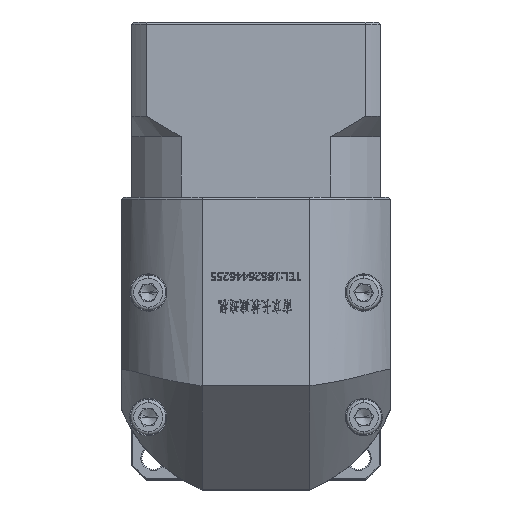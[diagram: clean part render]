
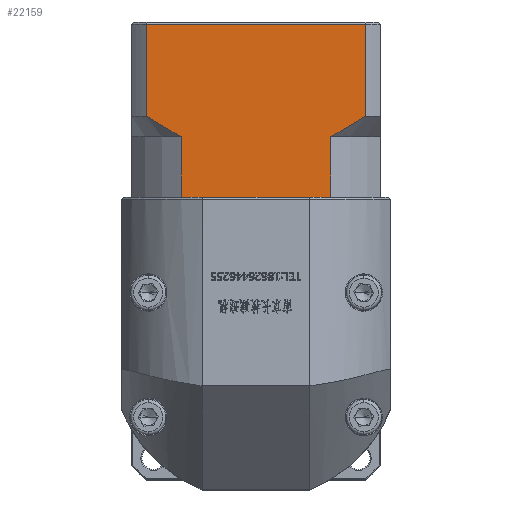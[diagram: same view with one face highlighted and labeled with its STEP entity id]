
A CAD part, top view. The second image highlights one B-rep face of the part: STEP entity #22159.
In plain terms, the highlighted planar face has unit normal (0, 0, 1).
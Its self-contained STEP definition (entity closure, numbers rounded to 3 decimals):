
#1004 = VERTEX_POINT ( 'NONE', #127131 ) ;
#2830 = DIRECTION ( 'NONE',  ( 0., 1., 0. ) ) ;
#6940 = DIRECTION ( 'NONE',  ( 0., -1., 0. ) ) ;
#10048 = CARTESIAN_POINT ( 'NONE',  ( 30.263, 90.373, 200.65 ) ) ;
#11062 = LINE ( 'NONE', #87279, #72237 ) ;
#11281 = VERTEX_POINT ( 'NONE', #120670 ) ;
#18015 = CARTESIAN_POINT ( 'NONE',  ( 27.52, 66.398, 200.65 ) ) ;
#19823 = VECTOR ( 'NONE', #106715, 1000. ) ;
#20478 = CARTESIAN_POINT ( 'NONE',  ( -13.231, 48.673, 200.65 ) ) ;
#22159 = ADVANCED_FACE ( 'NONE', ( #101096 ), #94531, .F. ) ;
#22619 = B_SPLINE_CURVE_WITH_KNOTS ( 'NONE', 3,
 ( #66599, #54347, #91208, #18015, #103552, #30273 ),
 .UNSPECIFIED., .F., .F.,
 ( 4, 2, 4 ),
 ( 0.1, 0.104, 0.109 ),
 .UNSPECIFIED. ) ;
#22865 = DIRECTION ( 'NONE',  ( 0., 0., -1. ) ) ;
#23471 = EDGE_CURVE ( 'NONE', #81962, #28402, #105769, .T. ) ;
#23988 = ORIENTED_EDGE ( 'NONE', *, *, #142561, .F. ) ;
#26711 = EDGE_CURVE ( 'NONE', #11281, #99156, #11062, .T. ) ;
#28402 = VERTEX_POINT ( 'NONE', #61653 ) ;
#29356 = VERTEX_POINT ( 'NONE', #10048 ) ;
#30273 = CARTESIAN_POINT ( 'NONE',  ( 30.263, 68.173, 200.65 ) ) ;
#35148 = EDGE_CURVE ( 'NONE', #29356, #48958, #87811, .T. ) ;
#36827 = VECTOR ( 'NONE', #58714, 1000. ) ;
#38342 = ORIENTED_EDGE ( 'NONE', *, *, #73760, .T. ) ;
#43843 = DIRECTION ( 'NONE',  ( 0., 1., 0. ) ) ;
#44931 = CARTESIAN_POINT ( 'NONE',  ( -22.652, 68.173, 200.65 ) ) ;
#46470 = CARTESIAN_POINT ( 'NONE',  ( 21.833, 63.173, 200.65 ) ) ;
#48958 = VERTEX_POINT ( 'NONE', #128516 ) ;
#54347 = CARTESIAN_POINT ( 'NONE',  ( 23.29, 63.924, 200.65 ) ) ;
#55354 = VECTOR ( 'NONE', #149104, 1000. ) ;
#55825 = EDGE_CURVE ( 'NONE', #29356, #84387, #83930, .T. ) ;
#55952 = ORIENTED_EDGE ( 'NONE', *, *, #135090, .T. ) ;
#57193 = CARTESIAN_POINT ( 'NONE',  ( -19.914, 66.401, 200.65 ) ) ;
#57407 = DIRECTION ( 'NONE',  ( 1., 0., 0. ) ) ;
#58714 = DIRECTION ( 'NONE',  ( 0., -1., 0. ) ) ;
#61653 = CARTESIAN_POINT ( 'NONE',  ( 21.833, 48.673, 200.65 ) ) ;
#64526 = ORIENTED_EDGE ( 'NONE', *, *, #83847, .T. ) ;
#66166 = LINE ( 'NONE', #130607, #131202 ) ;
#66599 = CARTESIAN_POINT ( 'NONE',  ( 21.833, 63.173, 200.65 ) ) ;
#69233 = CARTESIAN_POINT ( 'NONE',  ( -26.195, 48.673, 200.65 ) ) ;
#69481 = CARTESIAN_POINT ( 'NONE',  ( -15.674, 63.921, 200.65 ) ) ;
#71546 = VERTEX_POINT ( 'NONE', #20478 ) ;
#72237 = VECTOR ( 'NONE', #2830, 1000. ) ;
#73760 = EDGE_CURVE ( 'NONE', #11281, #71546, #113633, .T. ) ;
#74752 = EDGE_CURVE ( 'NONE', #71546, #1004, #150524, .T. ) ;
#75533 = VERTEX_POINT ( 'NONE', #77240 ) ;
#77240 = CARTESIAN_POINT ( 'NONE',  ( -22.652, 68.173, 200.65 ) ) ;
#80150 = CARTESIAN_POINT ( 'NONE',  ( 30.263, 63.173, 200.65 ) ) ;
#80611 = CARTESIAN_POINT ( 'NONE',  ( 21.833, 63.173, 200.65 ) ) ;
#81962 = VERTEX_POINT ( 'NONE', #80611 ) ;
#83659 = B_SPLINE_CURVE_WITH_KNOTS ( 'NONE', 3,
 ( #44931, #105907, #57193, #142666, #69481, #154891 ),
 .UNSPECIFIED., .F., .F.,
 ( 4, 2, 4 ),
 ( 0.052, 0.057, 0.062 ),
 .UNSPECIFIED. ) ;
#83847 = EDGE_CURVE ( 'NONE', #81962, #84387, #22619, .T. ) ;
#83930 = LINE ( 'NONE', #80150, #112772 ) ;
#84387 = VERTEX_POINT ( 'NONE', #96808 ) ;
#84978 = ORIENTED_EDGE ( 'NONE', *, *, #23471, .F. ) ;
#87279 = CARTESIAN_POINT ( 'NONE',  ( -14.222, 63.173, 200.65 ) ) ;
#87683 = ORIENTED_EDGE ( 'NONE', *, *, #26711, .F. ) ;
#87716 = CARTESIAN_POINT ( 'NONE',  ( -26.195, 90.373, 200.65 ) ) ;
#87811 = LINE ( 'NONE', #87716, #55354 ) ;
#90575 = ORIENTED_EDGE ( 'NONE', *, *, #55825, .F. ) ;
#91208 = CARTESIAN_POINT ( 'NONE',  ( 24.715, 64.724, 200.65 ) ) ;
#94531 = PLANE ( 'NONE',  #146042 ) ;
#94583 = CARTESIAN_POINT ( 'NONE',  ( -14.222, 63.173, 200.65 ) ) ;
#96118 = CARTESIAN_POINT ( 'NONE',  ( -26.195, 90.873, 200.65 ) ) ;
#96808 = CARTESIAN_POINT ( 'NONE',  ( 30.263, 68.173, 200.65 ) ) ;
#99156 = VERTEX_POINT ( 'NONE', #94583 ) ;
#101096 = FACE_OUTER_BOUND ( 'NONE', #133701, .T. ) ;
#103552 = CARTESIAN_POINT ( 'NONE',  ( 28.9, 67.272, 200.65 ) ) ;
#105769 = LINE ( 'NONE', #46470, #36827 ) ;
#105907 = CARTESIAN_POINT ( 'NONE',  ( -21.292, 67.274, 200.65 ) ) ;
#106715 = DIRECTION ( 'NONE',  ( 1., 0., 0. ) ) ;
#108491 = DIRECTION ( 'NONE',  ( 0., 1., 0. ) ) ;
#109445 = ORIENTED_EDGE ( 'NONE', *, *, #74752, .T. ) ;
#112772 = VECTOR ( 'NONE', #6940, 1000. ) ;
#113633 = LINE ( 'NONE', #69233, #19823 ) ;
#118212 = VECTOR ( 'NONE', #139633, 1000. ) ;
#120670 = CARTESIAN_POINT ( 'NONE',  ( -14.222, 48.673, 200.65 ) ) ;
#127131 = CARTESIAN_POINT ( 'NONE',  ( 20.842, 48.673, 200.65 ) ) ;
#127400 = CARTESIAN_POINT ( 'NONE',  ( -26.195, 48.673, 200.65 ) ) ;
#128516 = CARTESIAN_POINT ( 'NONE',  ( -22.652, 90.373, 200.65 ) ) ;
#129314 = CARTESIAN_POINT ( 'NONE',  ( -22.652, 63.173, 200.65 ) ) ;
#130607 = CARTESIAN_POINT ( 'NONE',  ( -26.195, 48.673, 200.65 ) ) ;
#131202 = VECTOR ( 'NONE', #57407, 1000. ) ;
#132873 = ORIENTED_EDGE ( 'NONE', *, *, #35148, .T. ) ;
#133701 = EDGE_LOOP ( 'NONE', ( #90575, #132873, #23988, #147197, #87683, #38342, #109445, #55952, #84978, #64526 ) ) ;
#135090 = EDGE_CURVE ( 'NONE', #1004, #28402, #66166, .T. ) ;
#139633 = DIRECTION ( 'NONE',  ( 1., 0., 0. ) ) ;
#140976 = VECTOR ( 'NONE', #43843, 1000. ) ;
#141416 = EDGE_CURVE ( 'NONE', #75533, #99156, #83659, .T. ) ;
#142561 = EDGE_CURVE ( 'NONE', #75533, #48958, #144790, .T. ) ;
#142666 = CARTESIAN_POINT ( 'NONE',  ( -17.106, 64.725, 200.65 ) ) ;
#144790 = LINE ( 'NONE', #129314, #140976 ) ;
#146042 = AXIS2_PLACEMENT_3D ( 'NONE', #96118, #22865, #108491 ) ;
#147197 = ORIENTED_EDGE ( 'NONE', *, *, #141416, .T. ) ;
#149104 = DIRECTION ( 'NONE',  ( -1., 0., 0. ) ) ;
#150524 = LINE ( 'NONE', #127400, #118212 ) ;
#154891 = CARTESIAN_POINT ( 'NONE',  ( -14.222, 63.173, 200.65 ) ) ;
